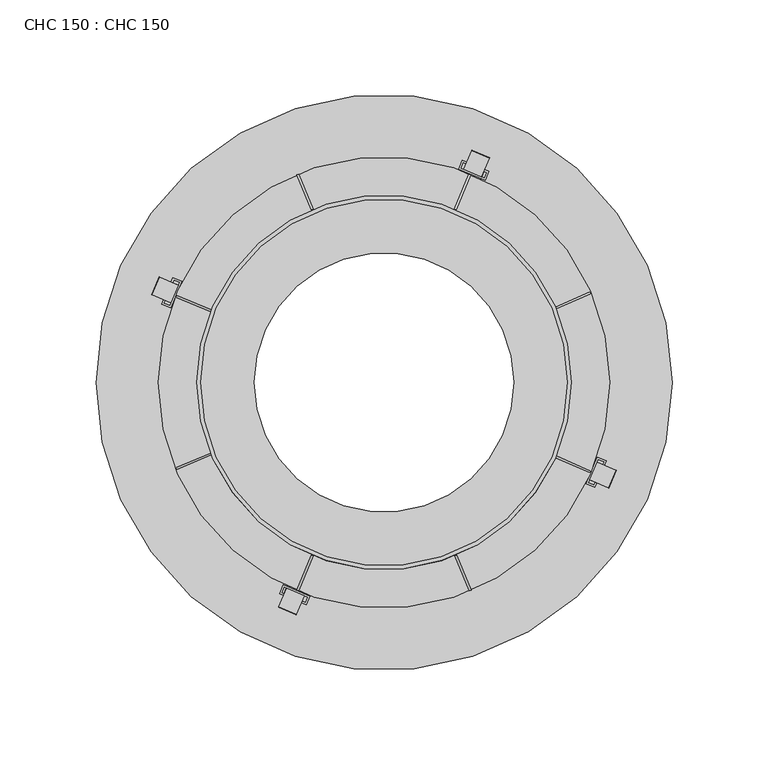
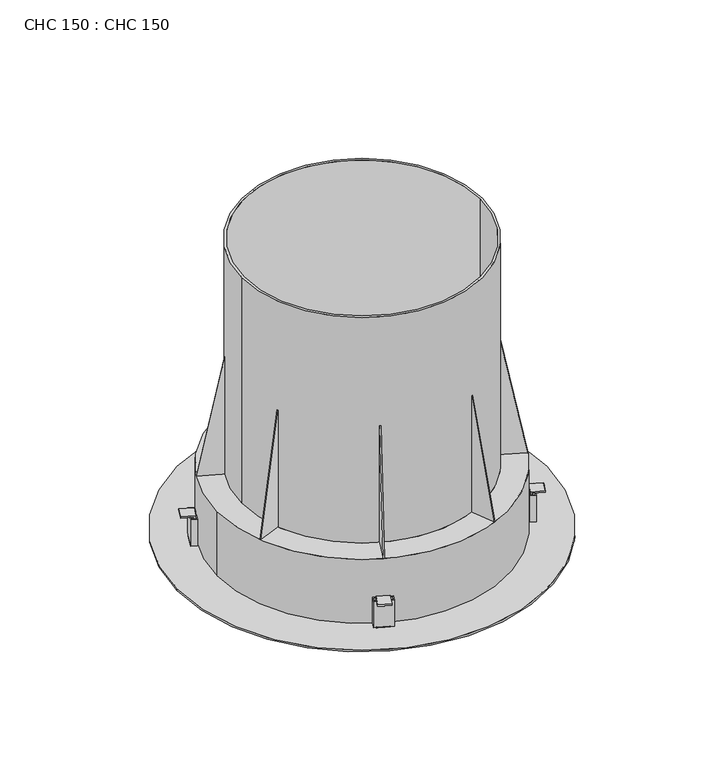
"""IFC4 building model written with IfcOpenShell, lengths in millimetres: proxy geometry, CHC 150 : CHC 150."""

from ifc_helpers import new_model, si_unit, point, frame, origin, origin_with_axes, origin_2d, place, context, project, spatial, polyline, circle_curve, ellipse_curve, trimmed, segment, composite_curve, outline, extrude, source, transform, mapped, element, save
from ifc_brep_helpers import plane_surface, cylinder_surface, revolved_surface, extruded_surface, advanced_brep


def chc_150_chc_150_485a2955(model_context):
    return source(origin(), model_context, "Body", "SolidModel", [
        advanced_brep(
        [(-117.5, 0.0, 56.5), (117.5, 0.0, 56.5), (-97.5, 0.0, 56.5), (97.5, 0.0, 56.5), (-117.5, 0.0, 1.5), (117.5, 0.0, 1.5), (-95.0, 0.0, 1.5), (95.0, 0.0, 1.5), (97.5, 0.0, 39.0), (-97.5, 0.0, 39.0), (-95.0, 0.0, 39.0), (95.0, 0.0, 39.0), (-117.5, 0.0, 39.0), (117.5, 0.0, 39.0)],
        [
            (0, 1, circle_curve(frame((0.0, 0.0, 56.5), z_axis=(0.0, 0.0, 1.0), x_axis=(1.0, 0.0, 0.0)), 117.5)),
            (1, 0, circle_curve(frame((0.0, 0.0, 56.5), z_axis=(0.0, 0.0, 1.0), x_axis=(1.0, 0.0, 0.0)), 117.5)),
            (2, 3, circle_curve(frame((0.0, 0.0, 56.5), z_axis=(0.0, 0.0, -1.0), x_axis=(1.0, 0.0, 0.0)), 97.5)),
            (3, 2, circle_curve(frame((0.0, 0.0, 56.5), z_axis=(0.0, 0.0, -1.0), x_axis=(1.0, 0.0, 0.0)), 97.5)),
            (4, 5, circle_curve(frame((0.0, 0.0, 1.5), z_axis=(0.0, 0.0, -1.0), x_axis=(1.0, 0.0, 0.0)), 117.5)),
            (5, 4, circle_curve(frame((0.0, 0.0, 1.5), z_axis=(0.0, 0.0, -1.0), x_axis=(1.0, 0.0, 0.0)), 117.5)),
            (6, 7, circle_curve(frame((0.0, 0.0, 1.5), z_axis=(0.0, 0.0, 1.0), x_axis=(1.0, 0.0, 0.0)), 95.0)),
            (7, 6, circle_curve(frame((0.0, 0.0, 1.5), z_axis=(0.0, 0.0, 1.0), x_axis=(1.0, 0.0, 0.0)), 95.0)),
            (8, 9, circle_curve(frame((0.0, 0.0, 39.0), z_axis=(0.0, 0.0, 1.0), x_axis=(1.0, 0.0, 0.0)), 97.5)),
            (9, 8, circle_curve(frame((0.0, 0.0, 39.0), z_axis=(0.0, 0.0, 1.0), x_axis=(1.0, 0.0, 0.0)), 97.5)),
            (10, 11, circle_curve(frame((0.0, 0.0, 39.0), z_axis=(0.0, 0.0, -1.0), x_axis=(1.0, 0.0, 0.0)), 95.0)),
            (11, 10, circle_curve(frame((0.0, 0.0, 39.0), z_axis=(0.0, 0.0, -1.0), x_axis=(1.0, 0.0, 0.0)), 95.0)),
            (0, 12),
            (12, 4),
            (5, 13),
            (13, 1),
            (2, 9),
            (8, 3),
            (10, 6),
            (7, 11),
        ],
        [
            plane_surface(frame((117.5, 0.0, 56.5), z_axis=(0.0, 0.0, 1.0), x_axis=(0.0, 1.0, 0.0))),
            plane_surface(frame((117.5, 0.0, 1.5), z_axis=(0.0, 0.0, -1.0), x_axis=(0.0, -1.0, 0.0))),
            plane_surface(frame((117.5, 0.0, 39.0), z_axis=(0.0, 0.0, 1.0), x_axis=(0.0, 1.0, 0.0))),
            cylinder_surface(frame((0.0, 0.0, 1.5), z_axis=(0.0, 0.0, 1.0), x_axis=(1.0, 0.0, 0.0)), 117.5),
            revolved_surface(polyline([(97.5, 0.0, 39.0), (97.5, 0.0, 56.5)]), (0.0, 0.0, 1.5), (0.0, 0.0, -1.0)),
            revolved_surface(polyline([(95.0, 0.0, 1.5), (95.0, 0.0, 39.0)]), (0.0, 0.0, 1.0), (0.0, 0.0, -1.0)),
        ],
        [
            (0, [[1, 2], [3, 4]]),
            (1, [[5, 6], [7, 8]]),
            (2, [[9, 10], [11, 12]]),
            (3, [[-1, 13, 14, -6, 15, 16]]),
            (3, [[-2, -16, -15, -5, -14, -13]]),
            (4, [[-3, 17, -9, 18]]),
            (4, [[-4, -18, -10, -17]]),
            (5, [[-11, 19, -8, 20]]),
            (5, [[-12, -20, -7, -19]]),
        ],
    ),
        extrude(outline(composite_curve([segment(trimmed(circle_curve(origin_2d(), 115.0), [point((103.8779945, -49.3392569))], [point((-40.2666892, -107.7199784))], False, "CARTESIAN"), True, "CONTINUOUS"), segment(polyline([(-40.2666892, -107.7199784), (-43.2346687, -114.7412513), (-52.4455454, -110.847699), (-49.4725567, -103.8145757)]), True, "CONTINUOUS"), segment(trimmed(circle_curve(origin_2d(), 115.0), [point((-49.4725567, -103.8145757))], [point((-107.766425, 40.1422177))], False, "CARTESIAN"), True, "CONTINUOUS"), segment(polyline([(-107.766425, 40.1422177), (-114.7743589, 43.105643), (-110.8795976, 52.3160086), (-103.8716637, 49.3525833)]), True, "CONTINUOUS"), segment(trimmed(circle_curve(origin_2d(), 115.0), [point((-103.8716637, 49.3525833))], [point((40.5418178, 107.616732))], False, "CARTESIAN"), True, "CONTINUOUS"), segment(polyline([(40.5418178, 107.616732), (43.0979125, 114.7763631), (52.3018385, 110.885691), (49.3395041, 103.877877)]), True, "CONTINUOUS"), segment(trimmed(circle_curve(origin_2d(), 115.0), [point((49.3395041, 103.877877))], [point((107.7715741, -40.1283917))], False, "CARTESIAN"), True, "CONTINUOUS"), segment(polyline([(107.7715741, -40.1283917), (114.7948951, -43.0972615), (110.9013155, -52.3081267), (103.8779945, -49.3392569)]), True, "CONTINUOUS")], self_intersect=False), holes=[composite_curve([segment(trimmed(circle_curve(origin_2d(), 95.0), [point((-95.0, 0.0))], [point((95.0, 0.0))], True, "CARTESIAN"), True, "CONTINUOUS"), segment(trimmed(circle_curve(origin_2d(), 95.0), [point((95.0, 0.0))], [point((-95.0, 0.0))], True, "CARTESIAN"), True, "CONTINUOUS")], self_intersect=False)]), frame((0.0, 0.0, 0.5), z_axis=(0.0, 0.0, 1.0), x_axis=(1.0, 0.0, 0.0)), (0.0, 0.0, 1.0), 1.0),
        extrude(outline(polyline([(0.0, 0.0), (101.931656, -1e-07), (98.1049498, -19.3757276), (0.0, 0.0)])), frame((-90.2683487, 36.8493768, 156.5), z_axis=(0.3826915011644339, 0.923876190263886, 9.285613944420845e-12), x_axis=(-0.17900773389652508, 0.07414926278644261, -0.9810494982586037)), (0.0, 0.0, 1.0), 1.0),
        extrude(outline(polyline([(100.0, 0.0), (0.0, -19.7500001), (0.0, 0.0), (100.0, 0.0)])), frame((-89.8856508, -37.7732503, 56.5), z_axis=(-0.3826915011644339, 0.923876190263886, -9.285588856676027e-12), x_axis=(-3.554854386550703e-12, 8.578180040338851e-12, 1.0)), (0.0, 0.0, 1.0), 1.0),
        extrude(outline(polyline([(0.0, 0.0), (-98.1049498, -19.3757276), (-101.931656, 0.0), (0.0, 0.0)])), frame((37.635798, 89.9432972, 156.5), z_axis=(-0.9238761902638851, 0.3826915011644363, -9.285600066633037e-12), x_axis=(-0.074149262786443, -0.17900773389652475, 0.9810494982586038)), (0.0, 0.0, 1.0), 1.0),
        extrude(outline(polyline([(0.0, 0.0), (-98.1049498, -19.3757276), (-101.931656, 0.0), (0.0, 0.0)])), frame((89.6305753, 38.3784887, 156.5), z_axis=(-0.39973159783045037, 0.9166322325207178, -9.285600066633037e-12), x_axis=(-0.17760416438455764, -0.07745090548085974, 0.9810494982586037)), (0.0, 0.0, 1.0), 1.0),
        extrude(outline(polyline([(100.0, 0.0), (0.0, -19.7500001), (0.0, 0.0), (100.0, 0.0)])), frame((-37.7732503, 89.8856508, 56.5), z_axis=(0.9238761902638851, 0.3826915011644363, -9.285588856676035e-12), x_axis=(8.578180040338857e-12, 3.5548543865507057e-12, 1.0)), (0.0, 0.0, 1.0), 1.0),
        extrude(outline(polyline([(-100.0, 0.0), (0.0, 0.0), (0.0, -19.7499999), (-100.0, 0.0)])), frame((36.8493768, -90.2683487, 56.5), z_axis=(0.9238761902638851, 0.3826915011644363, 9.285588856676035e-12), x_axis=(8.578180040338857e-12, 3.5548543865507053e-12, -1.0)), (0.0, 0.0, 1.0), 1.0),
        extrude(outline(polyline([(-100.0, 0.0), (0.0, 0.0), (0.0, -19.75), (-100.0, 0.0)])), frame((89.2727404, -39.1932278, 56.5), z_axis=(0.3997315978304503, 0.9166322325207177, 9.285588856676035e-12), x_axis=(3.710336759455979e-12, 8.512083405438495e-12, -1.0)), (0.0, 0.0, 1.0), 1.0),
        extrude(outline(polyline([(0.0, 0.0), (101.931656, 1e-07), (98.1049498, -19.3757276), (0.0, 0.0)])), frame((-36.8493741, -90.2683423, 156.5), z_axis=(-0.923876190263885, 0.3826915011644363, 9.285600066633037e-12), x_axis=(-0.07414926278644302, -0.17900773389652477, -0.9810494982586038)), (0.0, 0.0, 1.0), 1.0),
        advanced_brep(
        [(-41.5095344, -111.0910328, 25.4), (-45.5977723, -120.76245, 25.4), (-45.5977723, -120.76245, 24.4), (-41.8988904, -112.0121201, 24.4), (-41.8988904, -112.0121201, 1.0), (-41.5095344, -111.0910328, 1.0), (-50.720408, -107.1974729, 25.4), (-50.720408, -107.1974729, 1.0), (-51.1097639, -108.1185603, 1.0), (-51.1097639, -108.1185603, 24.4), (-54.8086458, -116.8688901, 24.4), (-54.8086458, -116.8688901, 25.4)],
        [
            (0, 1),
            (1, 2, ellipse_curve(frame((-45.5977723, -120.76245, 24.9), z_axis=(0.9210873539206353, -0.38935598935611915, 0.0), x_axis=(0.0, 0.0, 1.0)), 0.5, 0.25)),
            (2, 3),
            (3, 4),
            (4, 5),
            (5, 0),
            (6, 7),
            (7, 8),
            (8, 9),
            (9, 10),
            (10, 11, ellipse_curve(frame((-54.8086458, -116.8688901, 24.9), z_axis=(-0.9210873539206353, 0.38935598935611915, 0.0), x_axis=(0.0, 0.0, 1.0)), 0.5, 0.25)),
            (11, 6),
            (0, 6),
            (11, 1),
            (10, 2),
            (9, 3),
            (8, 4),
            (7, 5),
        ],
        [
            plane_surface(frame((-41.5095344, -111.0910328, 25.4), z_axis=(0.9210873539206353, -0.3893559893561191, 0.0), x_axis=(-0.3893559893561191, -0.9210873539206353, 0.0))),
            plane_surface(frame((-50.720408, -107.1974729, 25.4), z_axis=(-0.9210873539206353, 0.3893559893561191, 0.0), x_axis=(0.3893559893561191, 0.9210873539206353, 0.0))),
            plane_surface(frame((-41.5095344, -111.0910328, 25.4), z_axis=(0.0, 0.0, 1.0), x_axis=(-0.9210873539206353, 0.3893559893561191, 0.0))),
            extruded_surface(trimmed(ellipse_curve(frame((-64.0195194, -112.9753302, 24.9), z_axis=(0.9210873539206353, -0.38935598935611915, 0.0), x_axis=(0.0, 0.0, 1.0)), 0.5, 0.25), [point((-64.0195194, -112.9753302, 25.4))], [point((-64.0195194, -112.9753302, 24.4))], True, "CARTESIAN"), (9.210873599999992, -3.8935598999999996, 0.0), 10.000000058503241),
            plane_surface(frame((-45.5977723, -120.76245, 24.4), z_axis=(0.0, 0.0, -1.0), x_axis=(-0.9210873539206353, 0.3893559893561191, 0.0))),
            plane_surface(frame((-41.8988904, -112.0121201, 24.4), z_axis=(-0.3893559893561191, -0.9210873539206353, 0.0), x_axis=(-0.9210873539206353, 0.3893559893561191, 0.0))),
            plane_surface(frame((-41.8988904, -112.0121201, 1.0), z_axis=(0.0, 0.0, -1.0), x_axis=(-0.9210873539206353, 0.3893559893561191, 0.0))),
            plane_surface(frame((-41.5095344, -111.0910328, 1.0), z_axis=(0.3893559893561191, 0.9210873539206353, 0.0), x_axis=(-0.9210873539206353, 0.3893559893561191, 0.0))),
        ],
        [
            (0, [[1, 2, 3, 4, 5, 6]]),
            (1, [[7, 8, 9, 10, 11, 12]]),
            (2, [[-1, 13, -12, 14]]),
            (3, [[-2, -14, -11, 15]]),
            (4, [[-3, -15, -10, 16]]),
            (5, [[-4, -16, -9, 17]]),
            (6, [[-5, -17, -8, 18]]),
            (7, [[-6, -18, -7, -13]]),
        ],
    ),
        extrude(outline(polyline([(-52.3891863, -105.4431724), (-38.5567329, -111.2451748), (-40.4907337, -115.8559926), (-54.3231871, -110.0539902), (-52.3891863, -105.4431724)]), holes=[polyline([(-51.8538229, -106.7521361), (-53.0142234, -109.5186268), (-41.0260971, -114.5470288), (-39.8656966, -111.7805382), (-51.8538229, -106.7521361)])]), frame((0.0, 0.0, 1.5), z_axis=(0.0, 0.0, 1.0), x_axis=(1.0, 0.0, 0.0)), (0.0, 0.0, 1.0), 22.5),
        extrude(outline(polyline([(38.8696557, 111.1398034), (40.8186487, 115.744304), (54.6321507, 109.897325), (52.6831577, 105.2928244), (38.8696557, 111.1398034)]), holes=[polyline([(40.1803545, 111.6709049), (52.1520562, 106.6035231), (53.321452, 109.3662235), (41.3497503, 114.4336053), (40.1803545, 111.6709049)])]), frame((0.0, 0.0, 1.5), z_axis=(0.0, 0.0, 1.0), x_axis=(1.0, 0.0, 0.0)), (0.0, 0.0, 1.0), 22.5),
        advanced_brep(
        [(111.0864847, -41.5610564, 25.4), (120.7578931, -45.649315, 25.4), (120.7578931, -45.649315, 24.4), (112.0075712, -41.9504143, 24.4), (112.0075712, -41.9504143, 1.0), (111.0864847, -41.5610564, 1.0), (107.192905, -50.7719216, 25.4), (107.192905, -50.7719216, 1.0), (108.1139915, -51.1612795, 1.0), (108.1139915, -51.1612795, 24.4), (116.8643135, -54.8601802, 24.4), (116.8643135, -54.8601802, 25.4)],
        [
            (0, 1),
            (1, 2, ellipse_curve(frame((120.7578931, -45.649315, 24.9), z_axis=(0.38935796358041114, 0.9210865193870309, 0.0), x_axis=(0.0, 0.0, 1.0)), 0.5, 0.25)),
            (2, 3),
            (3, 4),
            (4, 5),
            (5, 0),
            (6, 7),
            (7, 8),
            (8, 9),
            (9, 10),
            (10, 11, ellipse_curve(frame((116.8643135, -54.8601802, 24.9), z_axis=(-0.38935796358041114, -0.9210865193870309, 0.0), x_axis=(0.0, 0.0, 1.0)), 0.5, 0.25)),
            (11, 6),
            (0, 6),
            (11, 1),
            (10, 2),
            (9, 3),
            (8, 4),
            (7, 5),
        ],
        [
            plane_surface(frame((111.0864847, -41.5610564, 25.4), z_axis=(0.38935796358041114, 0.921086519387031, 0.0), x_axis=(0.921086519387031, -0.38935796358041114, 0.0))),
            plane_surface(frame((107.192905, -50.7719216, 25.4), z_axis=(-0.38935796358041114, -0.921086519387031, 0.0), x_axis=(-0.921086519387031, 0.38935796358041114, 0.0))),
            plane_surface(frame((111.0864847, -41.5610564, 25.4), z_axis=(0.0, 0.0, 1.0), x_axis=(-0.3893579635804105, -0.9210865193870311, 0.0))),
            extruded_surface(trimmed(ellipse_curve(frame((112.9707338, -64.0710454, 24.9), z_axis=(0.38935796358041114, 0.9210865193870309, 0.0), x_axis=(0.0, 0.0, 1.0)), 0.5, 0.25), [point((112.9707338, -64.0710454, 25.4))], [point((112.9707338, -64.0710454, 24.4))], True, "CARTESIAN"), (3.8935796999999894, 9.2108652, 0.0), 10.000000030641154),
            plane_surface(frame((120.7578931, -45.649315, 24.4), z_axis=(0.0, 0.0, -1.0), x_axis=(-0.3893579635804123, -0.9210865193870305, 0.0))),
            plane_surface(frame((112.0075712, -41.9504143, 24.4), z_axis=(0.9210865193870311, -0.3893579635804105, 0.0), x_axis=(-0.3893579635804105, -0.9210865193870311, 0.0))),
            plane_surface(frame((112.0075712, -41.9504143, 1.0), z_axis=(0.0, 0.0, -1.0), x_axis=(-0.3893579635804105, -0.9210865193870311, 0.0))),
            plane_surface(frame((111.0864847, -41.5610564, 1.0), z_axis=(-0.9210865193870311, 0.3893579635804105, 0.0), x_axis=(-0.3893579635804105, -0.9210865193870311, 0.0))),
        ],
        [
            (0, [[1, 2, 3, 4, 5, 6]]),
            (1, [[7, 8, 9, 10, 11, 12]]),
            (2, [[-1, 13, -12, 14]]),
            (3, [[-2, -14, -11, 15]]),
            (4, [[-3, -15, -10, 16]]),
            (5, [[-4, -16, -9, 17]]),
            (6, [[-5, -17, -8, 18]]),
            (7, [[-6, -18, -7, -13]]),
        ],
    ),
        extrude(outline(polyline([(111.1313478, -38.8896396), (115.7358485, -40.8386326), (109.8888695, -54.6521346), (105.2843689, -52.7031416), (111.1313478, -38.8896396)]), holes=[polyline([(111.6624494, -40.2003383), (106.5950676, -52.1720401), (109.357768, -53.3414358), (114.4251498, -41.3697341), (111.6624494, -40.2003383)])]), frame((0.0, 0.0, 1.5), z_axis=(0.0, 0.0, 1.0), x_axis=(1.0, 0.0, 0.0)), (0.0, 0.0, 1.0), 22.5),
        advanced_brep(
        [(-111.0893039, 41.5498875, 25.4), (-120.7601878, 45.6393868, 25.4), (-120.7601878, 45.6393868, 24.4), (-112.0103405, 41.9393636, 24.4), (-112.0103405, 41.9393636, 1.0), (-111.0893039, 41.5498875, 1.0), (-107.1945426, 50.7602531, 25.4), (-107.1945426, 50.7602531, 1.0), (-108.1155792, 51.1497292, 1.0), (-108.1155792, 51.1497292, 24.4), (-116.8654265, 54.8497524, 24.4), (-116.8654265, 54.8497524, 25.4)],
        [
            (0, 1),
            (1, 2, ellipse_curve(frame((-120.7601878, 45.6393868, 24.9), z_axis=(-0.3894761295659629, -0.921036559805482, 0.0), x_axis=(0.0, 0.0, 1.0)), 0.5, 0.25)),
            (2, 3),
            (3, 4),
            (4, 5),
            (5, 0),
            (6, 7),
            (7, 8),
            (8, 9),
            (9, 10),
            (10, 11, ellipse_curve(frame((-116.8654265, 54.8497524, 24.9), z_axis=(0.3894761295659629, 0.921036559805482, 0.0), x_axis=(0.0, 0.0, 1.0)), 0.5, 0.25)),
            (11, 6),
            (0, 6),
            (11, 1),
            (10, 2),
            (9, 3),
            (8, 4),
            (7, 5),
        ],
        [
            plane_surface(frame((-111.0893039, 41.5498875, 25.4), z_axis=(-0.3894761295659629, -0.921036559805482, 0.0), x_axis=(-0.921036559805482, 0.3894761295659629, 0.0))),
            plane_surface(frame((-107.1945426, 50.7602531, 25.4), z_axis=(0.3894761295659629, 0.921036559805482, 0.0), x_axis=(0.921036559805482, -0.3894761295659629, 0.0))),
            plane_surface(frame((-111.0893039, 41.5498875, 25.4), z_axis=(0.0, 0.0, 1.0000000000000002), x_axis=(0.3894761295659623, 0.9210365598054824, 0.0))),
            extruded_surface(trimmed(ellipse_curve(frame((-112.9706652, 64.060118, 24.9), z_axis=(-0.3894761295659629, -0.921036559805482, 0.0), x_axis=(0.0, 0.0, 1.0)), 0.5, 0.25), [point((-112.9706652, 64.060118, 25.4))], [point((-112.9706652, 64.060118, 24.4))], True, "CARTESIAN"), (-3.894761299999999, -9.210365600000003, 0.0), 10.000000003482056),
            plane_surface(frame((-120.7601878, 45.6393868, 24.4), z_axis=(0.0, 0.0, -1.0), x_axis=(0.389476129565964, 0.9210365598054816, 0.0))),
            plane_surface(frame((-112.0103405, 41.9393636, 24.4), z_axis=(-0.9210365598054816, 0.389476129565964, 0.0), x_axis=(0.389476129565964, 0.9210365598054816, 0.0))),
            plane_surface(frame((-112.0103405, 41.9393636, 1.0), z_axis=(0.0, 0.0, -1.0000000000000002), x_axis=(0.3894761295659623, 0.9210365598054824, 0.0))),
            plane_surface(frame((-111.0893039, 41.5498875, 1.0), z_axis=(0.9210365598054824, -0.3894761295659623, 0.0), x_axis=(0.3894761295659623, 0.9210365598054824, 0.0))),
        ],
        [
            (0, [[1, 2, 3, 4, 5, 6]]),
            (1, [[7, 8, 9, 10, 11, 12]]),
            (2, [[-1, 13, -12, 14]]),
            (3, [[-2, -14, -11, 15]]),
            (4, [[-3, -15, -10, 16]]),
            (5, [[-4, -16, -9, 17]]),
            (6, [[-5, -17, -8, 18]]),
            (7, [[-6, -18, -7, -13]]),
        ],
    ),
        extrude(outline(polyline([(-105.2974164, 52.6790423), (-111.1395584, 38.8634939), (-115.7447412, 40.8108745), (-109.9025992, 54.6264229), (-105.2974164, 52.6790423)]), holes=[polyline([(-106.6079291, 52.1474819), (-109.3710388, 53.3159102), (-114.4342285, 41.342435), (-111.6711188, 40.1740066), (-106.6079291, 52.1474819)])]), frame((0.0, 0.0, 1.5), z_axis=(0.0, 0.0, 1.0), x_axis=(1.0, 0.0, 0.0)), (0.0, 0.0, 1.0), 22.5),
        extrude(outline(composite_curve([segment(trimmed(circle_curve(origin_2d(), 95.5), [point((-95.5, 0.0))], [point((95.5, 0.0))], False, "CARTESIAN"), True, "CONTINUOUS"), segment(trimmed(circle_curve(origin_2d(), 95.5), [point((95.5, 0.0))], [point((-95.5, 0.0))], False, "CARTESIAN"), True, "CONTINUOUS")], self_intersect=False), holes=[composite_curve([segment(trimmed(circle_curve(origin_2d(), 67.5), [point((-67.5, 0.0))], [point((67.5, 0.0))], True, "CARTESIAN"), True, "CONTINUOUS"), segment(trimmed(circle_curve(origin_2d(), 67.5), [point((67.5, 0.0))], [point((-67.5, 0.0))], True, "CARTESIAN"), True, "CONTINUOUS")], self_intersect=False)]), frame((0.0, 0.0, 47.8963391), z_axis=(0.0, 0.0, 1.0), x_axis=(1.0, 0.0, 0.0)), (0.0, 0.0, 1.0), 1.0),
        extrude(outline(composite_curve([segment(trimmed(circle_curve(origin_2d(), 97.5), [point((-97.5, 0.0))], [point((97.5, 0.0))], False, "CARTESIAN"), True, "CONTINUOUS"), segment(trimmed(circle_curve(origin_2d(), 97.5), [point((97.5, 0.0))], [point((-97.5, 0.0))], False, "CARTESIAN"), True, "CONTINUOUS")], self_intersect=False), holes=[composite_curve([segment(trimmed(circle_curve(origin_2d(), 95.5), [point((-95.5, 0.0))], [point((95.5, 0.0))], True, "CARTESIAN"), True, "CONTINUOUS"), segment(trimmed(circle_curve(origin_2d(), 95.5), [point((95.5, 0.0))], [point((-95.5, 0.0))], True, "CARTESIAN"), True, "CONTINUOUS")], self_intersect=False)]), frame((0.0, 0.0, 56.5), z_axis=(0.0, 0.0, 1.0), x_axis=(1.0, 0.0, 0.0)), (0.0, 0.0, 1.0), 193.5),
        extrude(outline(composite_curve([segment(trimmed(circle_curve(origin_2d(), 150.0), [point((-150.0, 0.0))], [point((150.0, 0.0))], False, "CARTESIAN"), True, "CONTINUOUS"), segment(trimmed(circle_curve(origin_2d(), 150.0), [point((150.0, 0.0))], [point((-150.0, 0.0))], False, "CARTESIAN"), True, "CONTINUOUS")], self_intersect=False), holes=[composite_curve([segment(polyline([(-114.7757852, 43.1022702), (-107.7677044, 40.1387829)]), True, "CONTINUOUS"), segment(trimmed(circle_curve(origin_2d(), 115.0), [point((-107.7677044, 40.1387829))], [point((-49.4725951, -103.8145574))], True, "CARTESIAN"), True, "CONTINUOUS"), segment(polyline([(-49.4725951, -103.8145574), (-52.4455888, -110.8476762), (-43.2373841, -114.7401079), (-40.2694514, -107.7189458)]), True, "CONTINUOUS"), segment(trimmed(circle_curve(origin_2d(), 115.0), [point((-40.2694514, -107.7189458))], [point((103.8779945, -49.3392569))], True, "CARTESIAN"), True, "CONTINUOUS"), segment(polyline([(103.8779945, -49.3392569), (110.9013155, -52.3081267), (114.7948951, -43.0972615), (107.7715741, -40.1283917)]), True, "CONTINUOUS"), segment(trimmed(circle_curve(origin_2d(), 115.0), [point((107.7715741, -40.1283917))], [point((49.4262076, 103.8366506))], True, "CARTESIAN"), True, "CONTINUOUS"), segment(polyline([(49.4262076, 103.8366506), (52.3901829, 110.8483461), (43.2382793, 114.7170274), (40.6796267, 107.5647153)]), True, "CONTINUOUS"), segment(trimmed(circle_curve(origin_2d(), 115.0), [point((40.6796267, 107.5647153))], [point((-103.8732367, 49.3492726))], True, "CARTESIAN"), True, "CONTINUOUS"), segment(polyline([(-103.8732367, 49.3492726), (-110.8810239, 52.3126358), (-114.7757852, 43.1022702)]), True, "CONTINUOUS")], self_intersect=False)]), origin_with_axes(), (0.0, 0.0, 1.0), 1.5),
        advanced_brep(
        [(41.5622769, 111.0813321, 25.4), (45.6505586, 120.7527308, 25.4), (45.6505586, 120.7527308, 24.4), (41.9516371, 112.0024177, 24.4), (41.9516371, 112.0024177, 1.5), (41.5622769, 111.0813321, 1.5), (50.7731329, 107.1877305, 25.4), (50.7731329, 107.1877305, 1.5), (51.162493, 108.1088161, 1.5), (51.162493, 108.1088161, 24.4), (54.8614145, 116.8591293, 24.4), (54.8614145, 116.8591293, 25.4)],
        [
            (0, 1),
            (1, 2, ellipse_curve(frame((45.6505586, 120.7527308, 24.9), z_axis=(-0.9210855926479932, 0.3893601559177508, 0.0), x_axis=(0.0, 0.0, 1.0)), 0.5, 0.25)),
            (2, 3),
            (3, 4),
            (4, 5),
            (5, 0),
            (6, 7),
            (7, 8),
            (8, 9),
            (9, 10),
            (10, 11, ellipse_curve(frame((54.8614145, 116.8591293, 24.9), z_axis=(0.9210855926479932, -0.3893601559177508, 0.0), x_axis=(0.0, 0.0, 1.0)), 0.5, 0.25)),
            (11, 6),
            (0, 6),
            (11, 1),
            (10, 2),
            (9, 3),
            (8, 4),
            (7, 5),
        ],
        [
            plane_surface(frame((41.5622769, 111.0813321, 25.4), z_axis=(-0.9210855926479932, 0.38936015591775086, 0.0), x_axis=(0.38936015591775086, 0.9210855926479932, 0.0))),
            plane_surface(frame((50.7731329, 107.1877305, 25.4), z_axis=(0.9210855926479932, -0.38936015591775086, 0.0), x_axis=(-0.38936015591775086, -0.9210855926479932, 0.0))),
            plane_surface(frame((41.5622769, 111.0813321, 25.4), z_axis=(0.0, 0.0, 1.0000000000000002), x_axis=(0.9210855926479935, -0.3893601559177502, 0.0))),
            extruded_surface(trimmed(ellipse_curve(frame((64.0722704, 112.9655277, 24.9), z_axis=(-0.9210855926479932, 0.3893601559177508, 0.0), x_axis=(0.0, 0.0, 1.0)), 0.5, 0.25), [point((64.0722704, 112.9655277, 25.4))], [point((64.0722704, 112.9655277, 24.4))], True, "CARTESIAN"), (-9.210855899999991, 3.893601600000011, 0.0), 9.999999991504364),
            plane_surface(frame((45.6505586, 120.7527308, 24.4), z_axis=(0.0, 0.0, -1.0000000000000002), x_axis=(0.9210855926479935, -0.3893601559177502, 0.0))),
            plane_surface(frame((41.9516371, 112.0024177, 24.4), z_axis=(0.3893601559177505, 0.9210855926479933, 0.0), x_axis=(0.9210855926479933, -0.3893601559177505, 0.0))),
            plane_surface(frame((41.9516371, 112.0024177, 1.5), z_axis=(0.0, 0.0, -1.0000000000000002), x_axis=(0.9210855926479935, -0.3893601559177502, 0.0))),
            plane_surface(frame((41.5622769, 111.0813321, 1.5), z_axis=(-0.3893601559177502, -0.9210855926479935, 0.0), x_axis=(0.9210855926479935, -0.3893601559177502, 0.0))),
        ],
        [
            (0, [[1, 2, 3, 4, 5, 6]]),
            (1, [[7, 8, 9, 10, 11, 12]]),
            (2, [[-1, 13, -12, 14]]),
            (3, [[-2, -14, -11, 15]]),
            (4, [[-3, -15, -10, 16]]),
            (5, [[-4, -16, -9, 17]]),
            (6, [[-5, -17, -8, 18]]),
            (7, [[-6, -18, -7, -13]]),
        ],
    ),
        extrude(outline(composite_curve([segment(trimmed(circle_curve(origin_2d(), 96.5), [point((96.5, 0.0))], [point((-96.5, 0.0))], False, "CARTESIAN"), True, "CONTINUOUS"), segment(trimmed(circle_curve(origin_2d(), 96.5), [point((-96.5, 0.0))], [point((96.5, 0.0))], False, "CARTESIAN"), True, "CONTINUOUS")], self_intersect=False), holes=[composite_curve([segment(trimmed(circle_curve(origin_2d(), 95.0), [point((95.0, 0.0))], [point((-95.0, 0.0))], True, "CARTESIAN"), True, "CONTINUOUS"), segment(trimmed(circle_curve(origin_2d(), 95.0), [point((-95.0, 0.0))], [point((95.0, 0.0))], True, "CARTESIAN"), True, "CONTINUOUS")], self_intersect=False)]), frame((0.0, 0.0, 1.5), z_axis=(0.0, 0.0, 1.0), x_axis=(1.0, 0.0, 0.0)), (0.0, 0.0, 1.0), 4.5),
    ])


if __name__ == "__main__":
    model = new_model("IFC4")
    model_context = context("Model", 3, world=origin())
    ifc_project = project(units=[si_unit("LENGTHUNIT", "METRE", prefix="MILLI")], contexts=[model_context])
    site = spatial("IfcSite", under=ifc_project)
    building = spatial("IfcBuilding", under=site)
    placement = place(None, origin())
    chc_150_chc_150_shape = chc_150_chc_150_485a2955(model_context)
    element("IfcBuildingElementProxy", 1, Name="CHC 150 : CHC 150", ObjectType="CHC 150 : CHC 150", at=placement, inside=building, context=model_context, shape_type="MappedRepresentation", body=[
        mapped(chc_150_chc_150_shape, transform((0.0, 0.0, 0.0), x_axis=(1.0, 0.0, 0.0), y_axis=(0.0, 1.0, 0.0), z_axis=(0.0, 0.0, 1.0))),
    ])
    save(model, "model.ifc")
